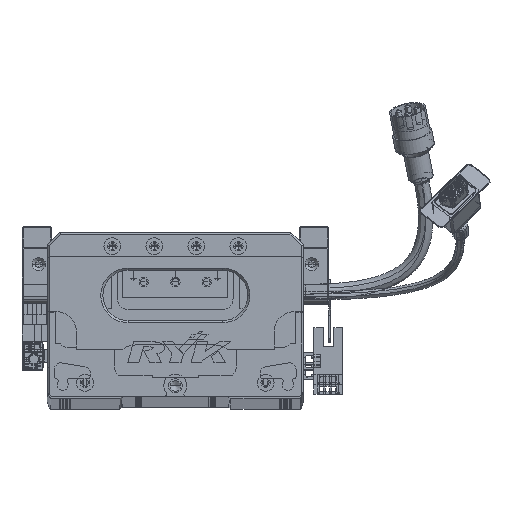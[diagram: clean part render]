
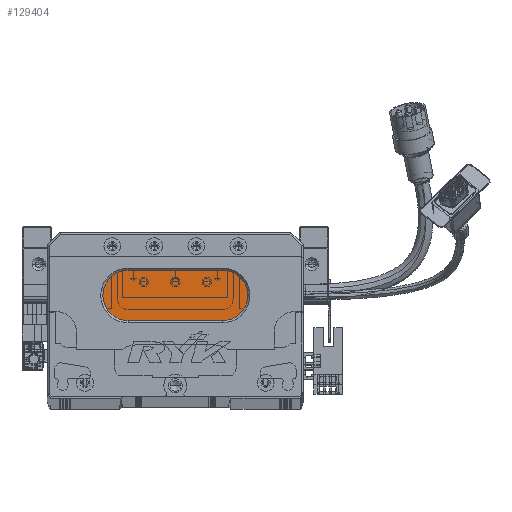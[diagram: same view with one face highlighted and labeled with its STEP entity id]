
A CAD part, top view. The second image highlights one B-rep face of the part: STEP entity #129404.
In plain terms, the highlighted planar face has unit normal (0, 0, 1) as drawn and (0, 0, -1) by its records, which use the part's own axes.
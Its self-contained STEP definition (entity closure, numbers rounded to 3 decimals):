
#6867 = ORIENTED_EDGE ( 'NONE', *, *, #15109, .T. ) ;
#11277 = DIRECTION ( 'NONE',  ( 0., 0., -1. ) ) ;
#11332 = DIRECTION ( 'NONE',  ( 0., 0., -1. ) ) ;
#14065 = DIRECTION ( 'NONE',  ( 0., 0., -1. ) ) ;
#15109 = EDGE_CURVE ( 'NONE', #76039, #63350, #84475, .T. ) ;
#15982 = DIRECTION ( 'NONE',  ( -1., 0., 0. ) ) ;
#18732 = FACE_OUTER_BOUND ( 'NONE', #20179, .T. ) ;
#18786 = VERTEX_POINT ( 'NONE', #43132 ) ;
#20179 = EDGE_LOOP ( 'NONE', ( #31157, #6867, #90233, #41102, #48841 ) ) ;
#23733 = VECTOR ( 'NONE', #51930, 1000. ) ;
#24309 = DIRECTION ( 'NONE',  ( -1., 0., 0. ) ) ;
#31157 = ORIENTED_EDGE ( 'NONE', *, *, #96694, .T. ) ;
#34760 = CARTESIAN_POINT ( 'NONE',  ( 38.5, 48., 13. ) ) ;
#36907 = AXIS2_PLACEMENT_3D ( 'NONE', #112630, #11277, #80946 ) ;
#37179 = CARTESIAN_POINT ( 'NONE',  ( 83.5, 36., 13. ) ) ;
#41102 = ORIENTED_EDGE ( 'NONE', *, *, #58963, .T. ) ;
#41716 = DIRECTION ( 'NONE',  ( -1., 0., 0. ) ) ;
#42796 = AXIS2_PLACEMENT_3D ( 'NONE', #34760, #116011, #15982 ) ;
#43132 = CARTESIAN_POINT ( 'NONE',  ( 26.5, 48., 13. ) ) ;
#47378 = VERTEX_POINT ( 'NONE', #55776 ) ;
#48841 = ORIENTED_EDGE ( 'NONE', *, *, #49556, .T. ) ;
#49556 = EDGE_CURVE ( 'NONE', #95726, #47378, #53180, .T. ) ;
#51930 = DIRECTION ( 'NONE',  ( -1., 0., 0. ) ) ;
#52664 = CARTESIAN_POINT ( 'NONE',  ( 38.5, 60., 13. ) ) ;
#53180 = LINE ( 'NONE', #131625, #107515 ) ;
#55776 = CARTESIAN_POINT ( 'NONE',  ( 83.5, 60., 13. ) ) ;
#58963 = EDGE_CURVE ( 'NONE', #18786, #95726, #99738, .T. ) ;
#60899 = CARTESIAN_POINT ( 'NONE',  ( 83.5, 48., 13. ) ) ;
#63350 = VERTEX_POINT ( 'NONE', #89059 ) ;
#71210 = CIRCLE ( 'NONE', #36907, 12. ) ;
#73319 = EDGE_CURVE ( 'NONE', #63350, #18786, #103695, .T. ) ;
#76039 = VERTEX_POINT ( 'NONE', #37179 ) ;
#77256 = AXIS2_PLACEMENT_3D ( 'NONE', #60899, #11332, #41716 ) ;
#79862 = DIRECTION ( 'NONE',  ( 1., 0., 0. ) ) ;
#80946 = DIRECTION ( 'NONE',  ( -1., 0., 0. ) ) ;
#84475 = LINE ( 'NONE', #92961, #23733 ) ;
#89059 = CARTESIAN_POINT ( 'NONE',  ( 38.5, 36., 13. ) ) ;
#90233 = ORIENTED_EDGE ( 'NONE', *, *, #73319, .T. ) ;
#92961 = CARTESIAN_POINT ( 'NONE',  ( 83.5, 36., 13. ) ) ;
#95726 = VERTEX_POINT ( 'NONE', #52664 ) ;
#96694 = EDGE_CURVE ( 'NONE', #47378, #76039, #71210, .T. ) ;
#99738 = CIRCLE ( 'NONE', #130087, 12. ) ;
#103695 = CIRCLE ( 'NONE', #42796, 12. ) ;
#107515 = VECTOR ( 'NONE', #79862, 1000. ) ;
#112630 = CARTESIAN_POINT ( 'NONE',  ( 83.5, 48., 13. ) ) ;
#113529 = PLANE ( 'NONE',  #77256 ) ;
#115828 = CARTESIAN_POINT ( 'NONE',  ( 38.5, 48., 13. ) ) ;
#116011 = DIRECTION ( 'NONE',  ( 0., 0., -1. ) ) ;
#129404 = ADVANCED_FACE ( 'NONE', ( #18732 ), #113529, .T. ) ;
#130087 = AXIS2_PLACEMENT_3D ( 'NONE', #115828, #14065, #24309 ) ;
#131625 = CARTESIAN_POINT ( 'NONE',  ( 83.5, 60., 13. ) ) ;
